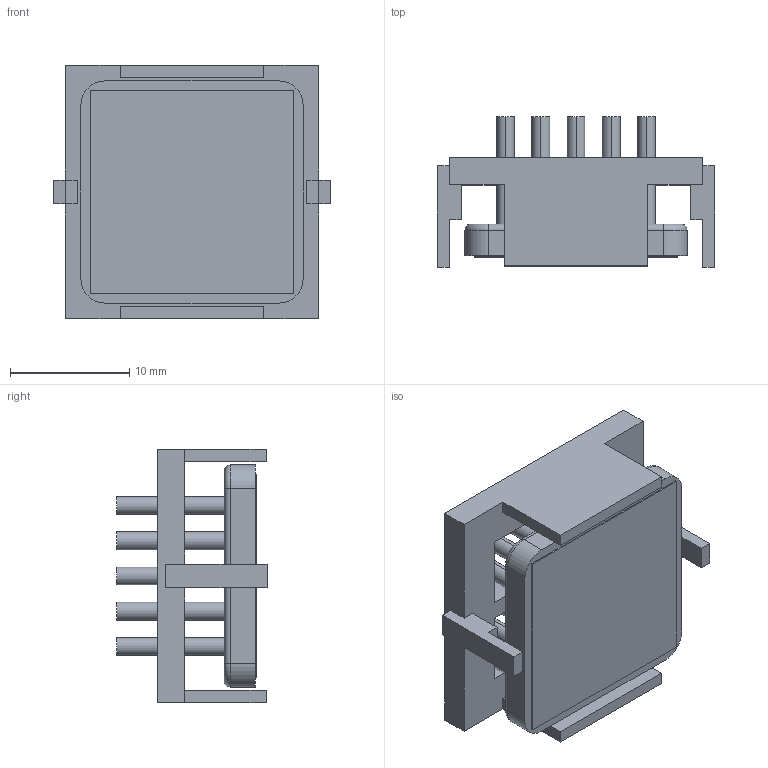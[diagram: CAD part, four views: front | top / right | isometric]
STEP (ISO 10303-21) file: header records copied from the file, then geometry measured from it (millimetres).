
FILE_DESCRIPTION (( 'STEP AP214' ), '1' );
FILE_NAME ('INM19002-12PCU-2.6O.STEP', '2023-03-02T22:56:07', ( '' ), ( '' ), 'SwSTEP 2.0', 'SolidWorks 2020', '' );
FILE_SCHEMA (( 'AUTOMOTIVE_DESIGN' ));
Length unit declared in the file: millimetre
Products named in the file (1): INM19002-12PCU-2.6O
Bounding box: 23.2 x 12.6 x 21.2 mm (x, y, z)
Volume: 2103.3 mm3; surface area: 3744.4 mm2
Topology: 3 solids, 3 shells, 133 faces, 310 edges, 204 vertices
Faces by surface type: plane 79, cylinder 50, torus 4
Entity records: 5323 total; most frequent: DIRECTION 682, CARTESIAN_POINT 648, ORIENTED_EDGE 620, EDGE_CURVE 310, AXIS2_PLACEMENT_3D 238, LINE 206, VECTOR 206, VERTEX_POINT 204
